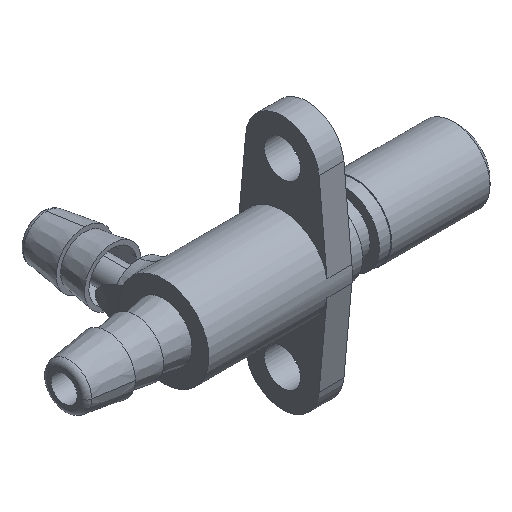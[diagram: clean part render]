
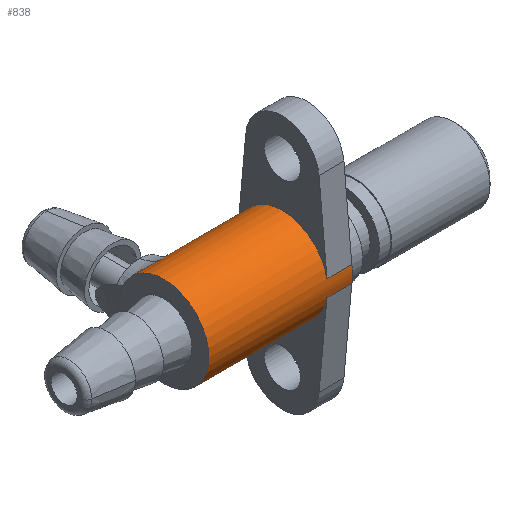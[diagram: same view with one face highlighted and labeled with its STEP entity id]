
A CAD part, isometric view. The second image highlights one B-rep face of the part: STEP entity #838.
In plain terms, the highlighted cylindrical face has radius 4 mm (diameter 8 mm), a full revolution.
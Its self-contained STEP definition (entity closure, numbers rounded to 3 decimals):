
#53=B_SPLINE_CURVE_WITH_KNOTS('',3,(#1474,#1475,#1476,#1477,#1478,#1479,
#1480,#1481,#1482,#1483),.UNSPECIFIED.,.F.,.F.,(4,2,2,2,4),(-1.303,
-1.261,-1.212,-1.082,-1.046),
 .UNSPECIFIED.);
#54=B_SPLINE_CURVE_WITH_KNOTS('',3,(#1485,#1486,#1487,#1488,#1489,#1490,
#1491,#1492,#1493,#1494,#1495,#1496,#1497,#1498,#1499,#1500,#1501,#1502,
#1503,#1504,#1505,#1506,#1507,#1508,#1509,#1510,#1511,#1512,#1513),
 .UNSPECIFIED.,.F.,.F.,(4,2,2,2,2,2,3,2,2,2,2,2,2,4),(-0.53,
-0.492,-0.432,-0.338,-0.193,
-0.091,0.,0.093,0.191,0.389,
0.496,0.545,0.582,0.585),
 .UNSPECIFIED.);
#55=B_SPLINE_CURVE_WITH_KNOTS('',3,(#1515,#1516,#1517,#1518,#1519,#1520,
#1521,#1522,#1523,#1524,#1525,#1526),.UNSPECIFIED.,.F.,.F.,(4,2,2,2,2,4),
(-0.808,-0.705,-0.626,-0.582,
-0.541,-0.53),.UNSPECIFIED.);
#88=FACE_OUTER_BOUND('',#138,.T.);
#138=EDGE_LOOP('',(#623,#624,#625,#626,#627,#628,#629,#630,#631,#632,#633,
#634,#635,#636,#637,#638));
#203=LINE('',#1458,#240);
#204=LINE('',#1462,#241);
#205=LINE('',#1466,#242);
#206=LINE('',#1470,#243);
#207=LINE('',#1530,#244);
#240=VECTOR('',#1148,2.2);
#241=VECTOR('',#1151,2.2);
#242=VECTOR('',#1154,2.2);
#243=VECTOR('',#1157,4.);
#244=VECTOR('',#1164,2.2);
#303=CIRCLE('',#949,4.);
#304=CIRCLE('',#950,4.);
#305=CIRCLE('',#951,4.);
#306=CIRCLE('',#952,4.);
#307=CIRCLE('',#953,4.);
#308=CIRCLE('',#954,4.);
#309=CIRCLE('',#955,4.);
#389=VERTEX_POINT('',#1454);
#390=VERTEX_POINT('',#1455);
#391=VERTEX_POINT('',#1457);
#392=VERTEX_POINT('',#1459);
#393=VERTEX_POINT('',#1461);
#394=VERTEX_POINT('',#1463);
#395=VERTEX_POINT('',#1465);
#396=VERTEX_POINT('',#1467);
#397=VERTEX_POINT('',#1469);
#398=VERTEX_POINT('',#1471);
#399=VERTEX_POINT('',#1473);
#400=VERTEX_POINT('',#1484);
#401=VERTEX_POINT('',#1514);
#402=VERTEX_POINT('',#1528);
#488=EDGE_CURVE('',#389,#390,#303,.T.);
#489=EDGE_CURVE('',#389,#391,#203,.T.);
#490=EDGE_CURVE('',#392,#391,#304,.T.);
#491=EDGE_CURVE('',#392,#393,#204,.T.);
#492=EDGE_CURVE('',#394,#393,#305,.T.);
#493=EDGE_CURVE('',#394,#395,#205,.T.);
#494=EDGE_CURVE('',#396,#395,#306,.T.);
#495=EDGE_CURVE('',#396,#397,#206,.T.);
#496=EDGE_CURVE('',#397,#398,#307,.T.);
#497=EDGE_CURVE('',#399,#398,#53,.T.);
#498=EDGE_CURVE('',#400,#399,#54,.T.);
#499=EDGE_CURVE('',#401,#400,#55,.T.);
#500=EDGE_CURVE('',#401,#397,#308,.T.);
#501=EDGE_CURVE('',#402,#396,#309,.T.);
#502=EDGE_CURVE('',#402,#390,#207,.T.);
#623=ORIENTED_EDGE('',*,*,#488,.F.);
#624=ORIENTED_EDGE('',*,*,#489,.T.);
#625=ORIENTED_EDGE('',*,*,#490,.F.);
#626=ORIENTED_EDGE('',*,*,#491,.T.);
#627=ORIENTED_EDGE('',*,*,#492,.F.);
#628=ORIENTED_EDGE('',*,*,#493,.T.);
#629=ORIENTED_EDGE('',*,*,#494,.F.);
#630=ORIENTED_EDGE('',*,*,#495,.T.);
#631=ORIENTED_EDGE('',*,*,#496,.T.);
#632=ORIENTED_EDGE('',*,*,#497,.F.);
#633=ORIENTED_EDGE('',*,*,#498,.F.);
#634=ORIENTED_EDGE('',*,*,#499,.F.);
#635=ORIENTED_EDGE('',*,*,#500,.T.);
#636=ORIENTED_EDGE('',*,*,#495,.F.);
#637=ORIENTED_EDGE('',*,*,#501,.F.);
#638=ORIENTED_EDGE('',*,*,#502,.T.);
#818=CYLINDRICAL_SURFACE('',#948,4.);
#838=ADVANCED_FACE('',(#88),#818,.T.);
#948=AXIS2_PLACEMENT_3D('',#1453,#1144,#1145);
#949=AXIS2_PLACEMENT_3D('',#1456,#1146,#1147);
#950=AXIS2_PLACEMENT_3D('',#1460,#1149,#1150);
#951=AXIS2_PLACEMENT_3D('',#1464,#1152,#1153);
#952=AXIS2_PLACEMENT_3D('',#1468,#1155,#1156);
#953=AXIS2_PLACEMENT_3D('',#1472,#1158,#1159);
#954=AXIS2_PLACEMENT_3D('',#1527,#1160,#1161);
#955=AXIS2_PLACEMENT_3D('',#1529,#1162,#1163);
#1144=DIRECTION('center_axis',(-1.,0.,0.));
#1145=DIRECTION('ref_axis',(0.,1.,0.));
#1146=DIRECTION('center_axis',(1.,0.,0.));
#1147=DIRECTION('ref_axis',(0.,0.983,0.183));
#1148=DIRECTION('',(1.,0.,0.));
#1149=DIRECTION('center_axis',(1.,0.,0.));
#1150=DIRECTION('ref_axis',(0.,0.983,-0.183));
#1151=DIRECTION('',(-1.,0.,0.));
#1152=DIRECTION('center_axis',(1.,0.,0.));
#1153=DIRECTION('ref_axis',(0.,0.,
-1.));
#1154=DIRECTION('',(1.,0.,0.));
#1155=DIRECTION('center_axis',(1.,0.,0.));
#1156=DIRECTION('ref_axis',(0.,-0.983,0.183));
#1157=DIRECTION('',(-1.,0.,0.));
#1158=DIRECTION('center_axis',(1.,0.,0.));
#1159=DIRECTION('ref_axis',(0.,0.906,0.424));
#1160=DIRECTION('center_axis',(1.,0.,0.));
#1161=DIRECTION('ref_axis',(0.,0.906,0.424));
#1162=DIRECTION('center_axis',(1.,0.,0.));
#1163=DIRECTION('ref_axis',(0.,-0.983,0.183));
#1164=DIRECTION('',(-1.,0.,0.));
#1453=CARTESIAN_POINT('Origin',(12.7,0.,0.));
#1454=CARTESIAN_POINT('',(10.5,3.933,0.73));
#1455=CARTESIAN_POINT('',(10.5,-3.933,0.73));
#1456=CARTESIAN_POINT('Origin',(10.5,0.,0.));
#1457=CARTESIAN_POINT('',(12.7,3.933,0.73));
#1458=CARTESIAN_POINT('',(10.5,3.933,0.73));
#1459=CARTESIAN_POINT('',(12.7,3.933,-0.73));
#1460=CARTESIAN_POINT('Origin',(12.7,0.,0.));
#1461=CARTESIAN_POINT('',(10.5,3.933,-0.73));
#1462=CARTESIAN_POINT('',(12.7,3.933,-0.73));
#1463=CARTESIAN_POINT('',(10.5,-3.933,-0.73));
#1464=CARTESIAN_POINT('Origin',(10.5,0.,0.));
#1465=CARTESIAN_POINT('',(12.7,-3.933,-0.73));
#1466=CARTESIAN_POINT('',(10.5,-3.933,-0.73));
#1467=CARTESIAN_POINT('',(12.7,-4.,0.));
#1468=CARTESIAN_POINT('Origin',(12.7,0.,0.));
#1469=CARTESIAN_POINT('',(0.,-4.,0.));
#1470=CARTESIAN_POINT('',(12.7,-4.,0.));
#1471=CARTESIAN_POINT('',(0.,3.622,-1.697));
#1472=CARTESIAN_POINT('Origin',(0.,0.,0.));
#1473=CARTESIAN_POINT('',(2.,2.441,-3.169));
#1474=CARTESIAN_POINT('Ctrl Pts',(2.,2.441,-3.169));
#1475=CARTESIAN_POINT('Ctrl Pts',(1.96,2.441,-3.169));
#1476=CARTESIAN_POINT('Ctrl Pts',(1.92,2.447,-3.164));
#1477=CARTESIAN_POINT('Ctrl Pts',(1.825,2.475,-3.142));
#1478=CARTESIAN_POINT('Ctrl Pts',(1.752,2.504,-3.12));
#1479=CARTESIAN_POINT('Ctrl Pts',(1.339,2.722,-2.938));
#1480=CARTESIAN_POINT('Ctrl Pts',(0.805,3.068,-2.631));
#1481=CARTESIAN_POINT('Ctrl Pts',(0.223,3.466,-2.003));
#1482=CARTESIAN_POINT('Ctrl Pts',(0.105,3.548,-1.855));
#1483=CARTESIAN_POINT('Ctrl Pts',(0.,3.622,
-1.697));
#1484=CARTESIAN_POINT('',(2.,2.441,3.169));
#1485=CARTESIAN_POINT('Ctrl Pts',(2.,2.441,3.169));
#1486=CARTESIAN_POINT('Ctrl Pts',(2.032,2.441,3.169));
#1487=CARTESIAN_POINT('Ctrl Pts',(2.064,2.445,3.166));
#1488=CARTESIAN_POINT('Ctrl Pts',(2.151,2.466,3.149));
#1489=CARTESIAN_POINT('Ctrl Pts',(2.22,2.492,3.13));
#1490=CARTESIAN_POINT('Ctrl Pts',(2.484,2.626,3.019));
#1491=CARTESIAN_POINT('Ctrl Pts',(2.706,2.761,2.902));
#1492=CARTESIAN_POINT('Ctrl Pts',(3.292,3.133,2.508));
#1493=CARTESIAN_POINT('Ctrl Pts',(3.644,3.373,2.194));
#1494=CARTESIAN_POINT('Ctrl Pts',(4.123,3.708,1.531));
#1495=CARTESIAN_POINT('Ctrl Pts',(4.282,3.822,1.228));
#1496=CARTESIAN_POINT('Ctrl Pts',(4.481,3.965,0.607));
#1497=CARTESIAN_POINT('Ctrl Pts',(4.529,4.,0.305));
#1498=CARTESIAN_POINT('Ctrl Pts',(4.529,4.,0.));
#1499=CARTESIAN_POINT('Ctrl Pts',(4.529,4.,-0.31));
#1500=CARTESIAN_POINT('Ctrl Pts',(4.48,3.964,-0.612));
#1501=CARTESIAN_POINT('Ctrl Pts',(4.289,3.827,-1.205));
#1502=CARTESIAN_POINT('Ctrl Pts',(4.149,3.726,-1.479));
#1503=CARTESIAN_POINT('Ctrl Pts',(3.649,3.376,-2.214));
#1504=CARTESIAN_POINT('Ctrl Pts',(3.224,3.086,-2.568));
#1505=CARTESIAN_POINT('Ctrl Pts',(2.63,2.715,-2.944));
#1506=CARTESIAN_POINT('Ctrl Pts',(2.438,2.601,-3.04));
#1507=CARTESIAN_POINT('Ctrl Pts',(2.234,2.5,-3.123));
#1508=CARTESIAN_POINT('Ctrl Pts',(2.175,2.475,-3.143));
#1509=CARTESIAN_POINT('Ctrl Pts',(2.079,2.447,-3.164));
#1510=CARTESIAN_POINT('Ctrl Pts',(2.043,2.442,-3.168));
#1511=CARTESIAN_POINT('Ctrl Pts',(2.005,2.441,-3.169));
#1512=CARTESIAN_POINT('Ctrl Pts',(2.003,2.441,-3.169));
#1513=CARTESIAN_POINT('Ctrl Pts',(2.,2.441,-3.169));
#1514=CARTESIAN_POINT('',(0.,3.622,1.697));
#1515=CARTESIAN_POINT('Ctrl Pts',(0.,3.622,
1.697));
#1516=CARTESIAN_POINT('Ctrl Pts',(0.264,3.437,2.092));
#1517=CARTESIAN_POINT('Ctrl Pts',(0.597,3.207,2.415));
#1518=CARTESIAN_POINT('Ctrl Pts',(1.222,2.804,2.865));
#1519=CARTESIAN_POINT('Ctrl Pts',(1.474,2.65,2.999));
#1520=CARTESIAN_POINT('Ctrl Pts',(1.745,2.508,3.117));
#1521=CARTESIAN_POINT('Ctrl Pts',(1.808,2.482,3.137));
#1522=CARTESIAN_POINT('Ctrl Pts',(1.899,2.452,3.16));
#1523=CARTESIAN_POINT('Ctrl Pts',(1.936,2.445,3.166));
#1524=CARTESIAN_POINT('Ctrl Pts',(1.981,2.441,3.169));
#1525=CARTESIAN_POINT('Ctrl Pts',(1.99,2.441,3.169));
#1526=CARTESIAN_POINT('Ctrl Pts',(2.,2.441,3.169));
#1527=CARTESIAN_POINT('Origin',(0.,0.,0.));
#1528=CARTESIAN_POINT('',(12.7,-3.933,0.73));
#1529=CARTESIAN_POINT('Origin',(12.7,0.,0.));
#1530=CARTESIAN_POINT('',(12.7,-3.933,0.73));
